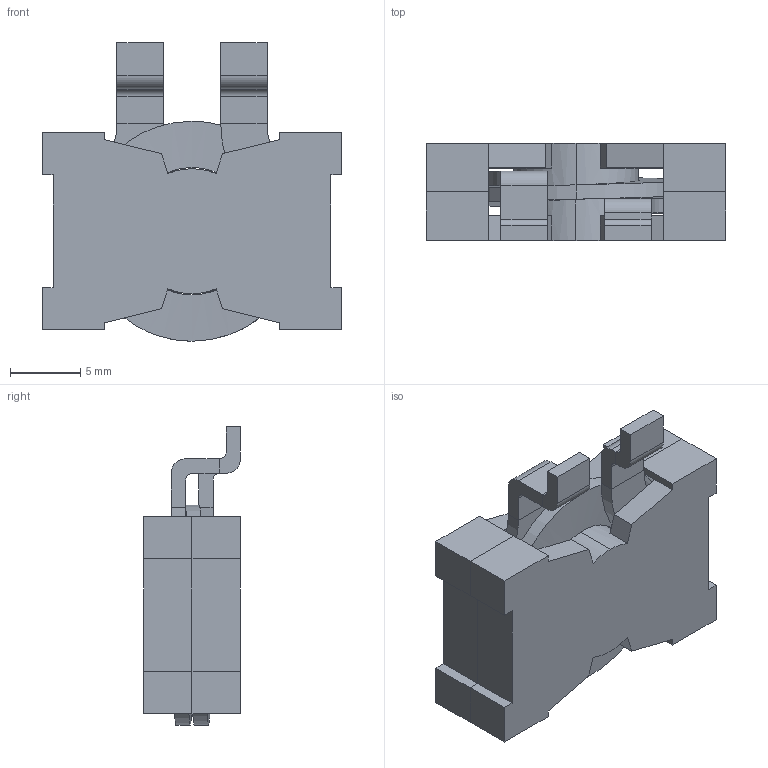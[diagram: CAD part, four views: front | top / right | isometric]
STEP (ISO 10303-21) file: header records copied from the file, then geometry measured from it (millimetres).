
FILE_DESCRIPTION (( 'STEP AP214' ), '1' );
FILE_NAME ('CWS-35067-REV.D.STEP', '2018-12-12T08:11:15', ( '' ), ( '' ), 'SwSTEP 2.0', 'SolidWorks 2015', '' );
FILE_SCHEMA (( 'AUTOMOTIVE_DESIGN' ));
Length unit declared in the file: millimetre
Products named in the file (1): CWS-35067-REV.D
Bounding box: 21.34 x 6.9 x 21.25 mm (x, y, z)
Volume: 1597.3 mm3; surface area: 2448.6 mm2
Topology: 5 solids, 5 shells, 129 faces, 333 edges, 214 vertices
Faces by surface type: plane 99, cylinder 28, bspline 2
Entity records: 5498 total; most frequent: CARTESIAN_POINT 871, ORIENTED_EDGE 666, DIRECTION 629, EDGE_CURVE 333, LINE 261, VECTOR 261, VERTEX_POINT 214, AXIS2_PLACEMENT_3D 184
